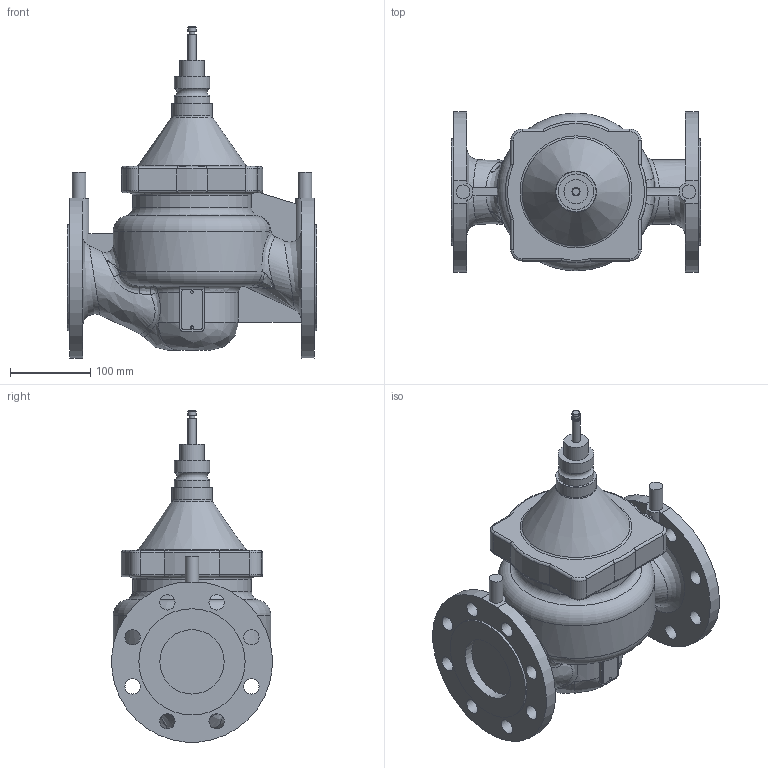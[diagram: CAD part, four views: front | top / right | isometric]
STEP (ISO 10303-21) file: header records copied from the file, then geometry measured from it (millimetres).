
FILE_DESCRIPTION(/* description */ (''),/* implementation_level */ '2;1');
FILE_NAME(/* name */ 'VPF DN80 PN25.stp',/* time_stamp */ '2012-11-14T15:15:28+01:00',/* author */ (''),/* organization */ (''),/* preprocessor_version */ 'ST-DEVELOPER v11',/* originating_system */ 'SIEMENS UGS NX 6.0',/* authorisation */ '');
FILE_SCHEMA (('AUTOMOTIVE_DESIGN { 1 0 10303 214 1 1 1 1 }'));
Length unit declared in the file: millimetre
Products named in the file (1): birk4876h2do
Bounding box: 310 x 199.67 x 412.63 mm (x, y, z)
Volume: 6855827.4 mm3; surface area: 373787.4 mm2
Topology: 1 solids, 1 shells, 184 faces, 463 edges, 291 vertices
Faces by surface type: cylinder 71, plane 51, bspline 30, torus 27, extrusion 3, cone 2
Full cylindrical faces by diameter (mm): 3.5 x2, 7 x1, 10 x2, 17 x2, 19 x16, 30 x1, 44 x2, 50 x1, 80 x2, 132 x2
Entity records: 7962 total; most frequent: CARTESIAN_POINT 3955, ORIENTED_EDGE 804, DIRECTION 774, EDGE_CURVE 402, AXIS2_PLACEMENT_3D 327, VERTEX_POINT 272, EDGE_LOOP 268, ADVANCED_FACE 184
